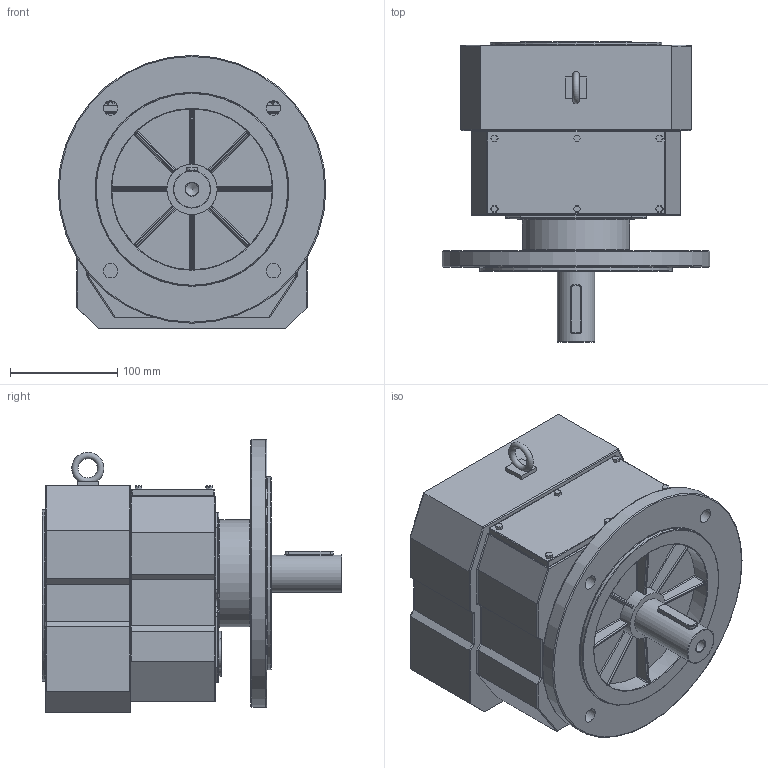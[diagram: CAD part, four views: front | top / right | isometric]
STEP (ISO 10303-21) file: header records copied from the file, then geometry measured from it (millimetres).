
FILE_DESCRIPTION((''),'2;1');
FILE_NAME('D:\PAWEŁ\ZLECENIA\2011 DualSystem\Przekładnie DR\DR60\STEP\DRF60_fi 250.stp','2012-06-11T12:08:20',('admin'),(''),'Autodesk Inventor 2009','Autodesk Inventor 2009','');
FILE_SCHEMA(('AUTOMOTIVE_DESIGN { 1 0 10303 214 1 1 1 1 }'));
Length unit declared in the file: millimetre
Products named in the file (1): DRF60_fi 250
Bounding box: 250 x 280 x 255 mm (x, y, z)
Volume: 7368402.9 mm3; surface area: 377652.8 mm2
Topology: 2 solids, 2 shells, 506 faces, 1212 edges, 686 vertices
Faces by surface type: cylinder 230, plane 169, sphere 44, bspline 43, torus 20
Full cylindrical faces by diameter (mm): 28 x1, 35 x1, 38 x1, 42 x1, 47 x1, 100 x1, 120 x1, 150 x1, 160 x1, 180 x1, 250 x1
Entity records: 16922 total; most frequent: CARTESIAN_POINT 5267, DIRECTION 2496, ORIENTED_EDGE 2274, EDGE_CURVE 1137, AXIS2_PLACEMENT_3D 938, VERTEX_POINT 678, VECTOR 620, LINE 620
